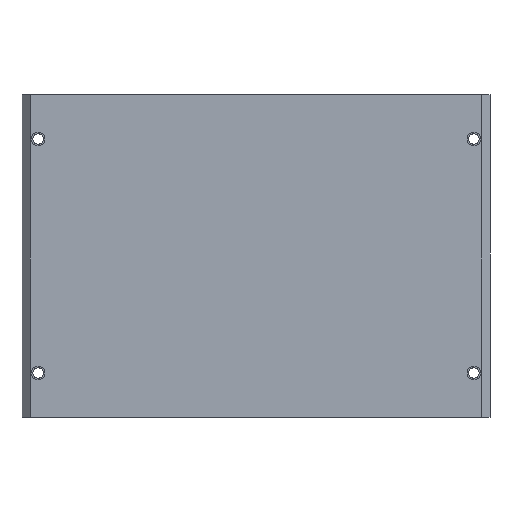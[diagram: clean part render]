
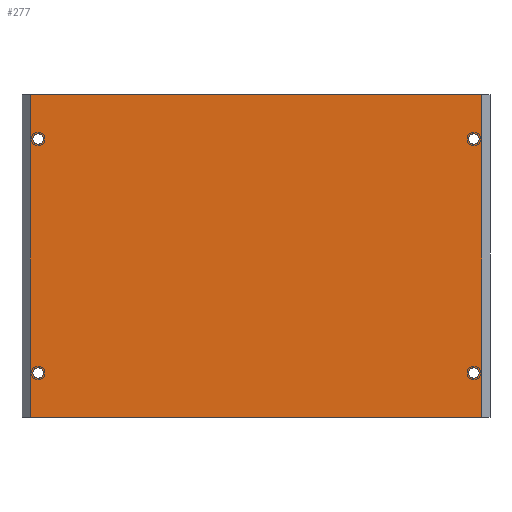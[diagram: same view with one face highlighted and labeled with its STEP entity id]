
A CAD part, top view. The second image highlights one B-rep face of the part: STEP entity #277.
In plain terms, the highlighted planar face has unit normal (0, 0, 1).
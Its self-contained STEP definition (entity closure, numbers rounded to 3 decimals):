
#13=DIRECTION('',(1.,0.,0.));
#14=VECTOR('',#13,56.);
#15=CARTESIAN_POINT('',(1.,0.,0.));
#16=LINE('',#15,#14);
#17=CARTESIAN_POINT('',(2.,34.5,0.));
#18=DIRECTION('',(0.,0.,1.));
#19=DIRECTION('',(-1.,0.,0.));
#20=AXIS2_PLACEMENT_3D('',#17,#18,#19);
#22=CARTESIAN_POINT('',(2.,34.5,0.));
#23=DIRECTION('',(0.,0.,1.));
#24=DIRECTION('',(1.,0.,0.));
#25=AXIS2_PLACEMENT_3D('',#22,#23,#24);
#27=CARTESIAN_POINT('',(2.,5.5,0.));
#28=DIRECTION('',(0.,0.,1.));
#29=DIRECTION('',(-1.,0.,0.));
#30=AXIS2_PLACEMENT_3D('',#27,#28,#29);
#32=CARTESIAN_POINT('',(2.,5.5,0.));
#33=DIRECTION('',(0.,0.,1.));
#34=DIRECTION('',(1.,0.,0.));
#35=AXIS2_PLACEMENT_3D('',#32,#33,#34);
#37=CARTESIAN_POINT('',(56.,34.5,0.));
#38=DIRECTION('',(0.,0.,1.));
#39=DIRECTION('',(-1.,0.,0.));
#40=AXIS2_PLACEMENT_3D('',#37,#38,#39);
#42=CARTESIAN_POINT('',(56.,34.5,0.));
#43=DIRECTION('',(0.,0.,1.));
#44=DIRECTION('',(1.,0.,0.));
#45=AXIS2_PLACEMENT_3D('',#42,#43,#44);
#47=CARTESIAN_POINT('',(56.,5.5,0.));
#48=DIRECTION('',(0.,0.,1.));
#49=DIRECTION('',(-1.,0.,0.));
#50=AXIS2_PLACEMENT_3D('',#47,#48,#49);
#52=CARTESIAN_POINT('',(56.,5.5,0.));
#53=DIRECTION('',(0.,0.,1.));
#54=DIRECTION('',(1.,0.,0.));
#55=AXIS2_PLACEMENT_3D('',#52,#53,#54);
#57=DIRECTION('',(0.,-1.,0.));
#58=VECTOR('',#57,40.);
#59=CARTESIAN_POINT('',(57.,40.,0.));
#60=LINE('',#59,#58);
#61=DIRECTION('',(0.,-1.,0.));
#62=VECTOR('',#61,40.);
#63=CARTESIAN_POINT('',(1.,40.,0.));
#64=LINE('',#63,#62);
#149=DIRECTION('',(1.,0.,0.));
#150=VECTOR('',#149,56.);
#151=CARTESIAN_POINT('',(1.,40.,0.));
#152=LINE('',#151,#150);
#161=CARTESIAN_POINT('',(1.35,34.5,0.));
#162=CARTESIAN_POINT('',(2.65,34.5,0.));
#163=VERTEX_POINT('',#161);
#164=VERTEX_POINT('',#162);
#169=CARTESIAN_POINT('',(1.35,5.5,0.));
#170=CARTESIAN_POINT('',(2.65,5.5,0.));
#171=VERTEX_POINT('',#169);
#172=VERTEX_POINT('',#170);
#177=CARTESIAN_POINT('',(55.35,34.5,0.));
#178=CARTESIAN_POINT('',(56.65,34.5,0.));
#179=VERTEX_POINT('',#177);
#180=VERTEX_POINT('',#178);
#185=CARTESIAN_POINT('',(55.35,5.5,0.));
#186=CARTESIAN_POINT('',(56.65,5.5,0.));
#187=VERTEX_POINT('',#185);
#188=VERTEX_POINT('',#186);
#193=CARTESIAN_POINT('',(1.,0.,0.));
#195=VERTEX_POINT('',#193);
#199=CARTESIAN_POINT('',(1.,40.,0.));
#200=VERTEX_POINT('',#199);
#202=CARTESIAN_POINT('',(57.,0.,0.));
#204=VERTEX_POINT('',#202);
#205=CARTESIAN_POINT('',(57.,40.,0.));
#206=VERTEX_POINT('',#205);
#240=CARTESIAN_POINT('',(0.,0.,0.));
#241=DIRECTION('',(0.,0.,1.));
#242=DIRECTION('',(1.,0.,0.));
#243=AXIS2_PLACEMENT_3D('',#240,#241,#242);
#244=PLANE('',#243);
#245=ORIENTED_EDGE('',*,*,#231,.T.);
#246=ORIENTED_EDGE('',*,*,#220,.F.);
#248=ORIENTED_EDGE('',*,*,#247,.F.);
#250=ORIENTED_EDGE('',*,*,#249,.T.);
#251=EDGE_LOOP('',(#245,#246,#248,#250));
#252=FACE_OUTER_BOUND('',#251,.F.);
#254=ORIENTED_EDGE('',*,*,#253,.T.);
#256=ORIENTED_EDGE('',*,*,#255,.T.);
#257=EDGE_LOOP('',(#254,#256));
#258=FACE_BOUND('',#257,.F.);
#260=ORIENTED_EDGE('',*,*,#259,.T.);
#262=ORIENTED_EDGE('',*,*,#261,.T.);
#263=EDGE_LOOP('',(#260,#262));
#264=FACE_BOUND('',#263,.F.);
#266=ORIENTED_EDGE('',*,*,#265,.T.);
#268=ORIENTED_EDGE('',*,*,#267,.T.);
#269=EDGE_LOOP('',(#266,#268));
#270=FACE_BOUND('',#269,.F.);
#272=ORIENTED_EDGE('',*,*,#271,.T.);
#274=ORIENTED_EDGE('',*,*,#273,.T.);
#275=EDGE_LOOP('',(#272,#274));
#276=FACE_BOUND('',#275,.F.);
#277=ADVANCED_FACE('',(#252,#258,#264,#270,#276),#244,.T.);
#21=CIRCLE('',#20,0.65);
#26=CIRCLE('',#25,0.65);
#31=CIRCLE('',#30,0.65);
#36=CIRCLE('',#35,0.65);
#41=CIRCLE('',#40,0.65);
#46=CIRCLE('',#45,0.65);
#51=CIRCLE('',#50,0.65);
#56=CIRCLE('',#55,0.65);
#220=EDGE_CURVE('',#195,#204,#16,.T.);
#231=EDGE_CURVE('',#206,#204,#60,.T.);
#247=EDGE_CURVE('',#200,#195,#64,.T.);
#249=EDGE_CURVE('',#200,#206,#152,.T.);
#253=EDGE_CURVE('',#171,#172,#31,.T.);
#255=EDGE_CURVE('',#172,#171,#36,.T.);
#259=EDGE_CURVE('',#179,#180,#41,.T.);
#261=EDGE_CURVE('',#180,#179,#46,.T.);
#265=EDGE_CURVE('',#187,#188,#51,.T.);
#267=EDGE_CURVE('',#188,#187,#56,.T.);
#271=EDGE_CURVE('',#163,#164,#21,.T.);
#273=EDGE_CURVE('',#164,#163,#26,.T.);
